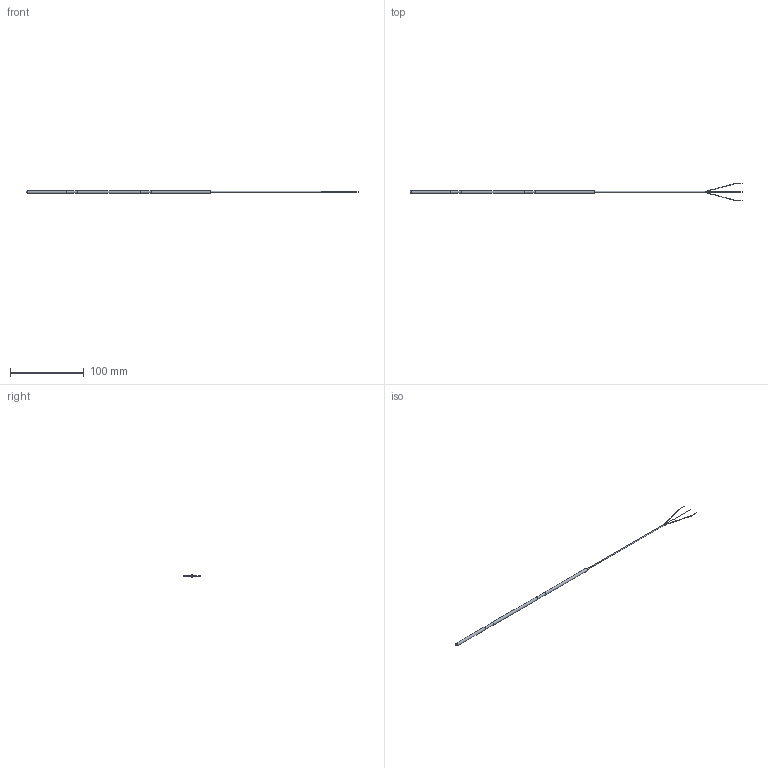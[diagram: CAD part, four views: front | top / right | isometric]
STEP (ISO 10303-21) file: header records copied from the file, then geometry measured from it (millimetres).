
FILE_DESCRIPTION (( 'STEP AP203' ), '1' );
FILE_NAME ('YIFR100-6(1).STEP', '2024-01-29T00:39:03', ( '' ), ( '' ), 'SwSTEP 2.0', 'SolidWorks 2021', '' );
FILE_SCHEMA (( 'CONFIG_CONTROL_DESIGN' ));
Length unit declared in the file: millimetre
Products named in the file (1): YIFR100-6(1)
Bounding box: 450 x 22.67 x 4 mm (x, y, z)
Volume: 3367.5 mm3; surface area: 4004.8 mm2
Topology: 1 solids, 1 shells, 22 faces, 35 edges, 22 vertices
Faces by surface type: plane 9, cylinder 8, torus 3, bspline 2
Full cylindrical faces by diameter (mm): 0.15 x3, 0.25 x1, 1.7 x1, 4 x3
Entity records: 529 total; most frequent: CARTESIAN_POINT 91, DIRECTION 84, ORIENTED_EDGE 42, AXIS2_PLACEMENT_3D 42, EDGE_LOOP 42, FACE_OUTER_BOUND 35, ADVANCED_FACE 22, VERTEX_POINT 21
